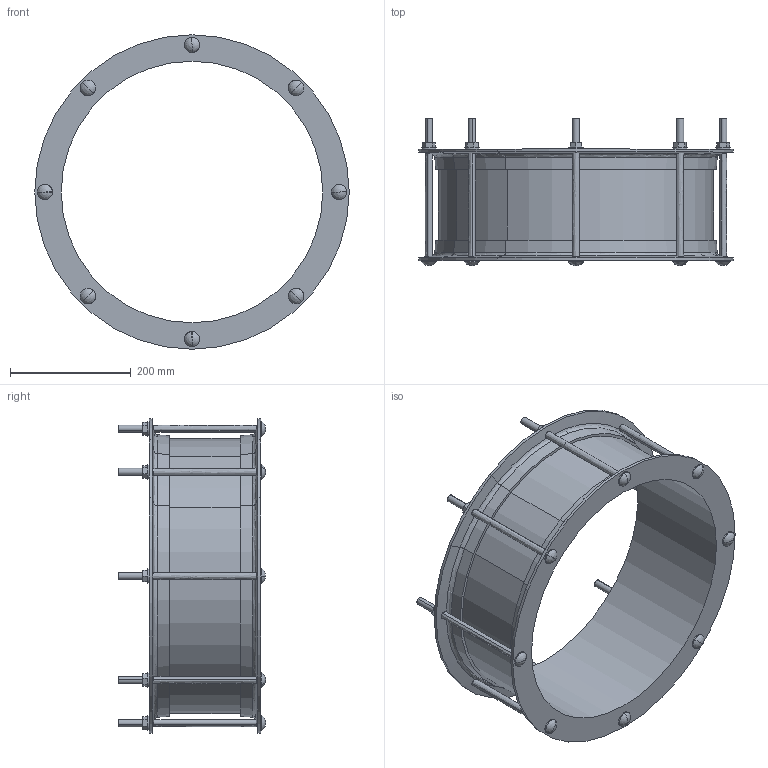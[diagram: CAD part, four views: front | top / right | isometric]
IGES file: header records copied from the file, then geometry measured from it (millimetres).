
Start section:  PTC IGES file: VJC_429.igs
Global section: file name: VJC_429.igs; native system: Creo Parametric by PTC Inc.; preprocessor: 2016130; author: mfairey; organization: Unknown; date: 20181206.092905; units: millimetre
Bounding box: 519.7 x 243.33 x 519.7 mm (x, y, z)
Surface area: 798330.3 mm2 (no closed solid volume)
Topology: 0 solids, 0 shells, 176 faces, 912 edges, 896 vertices
Faces by surface type: revolution 100, bspline 76
